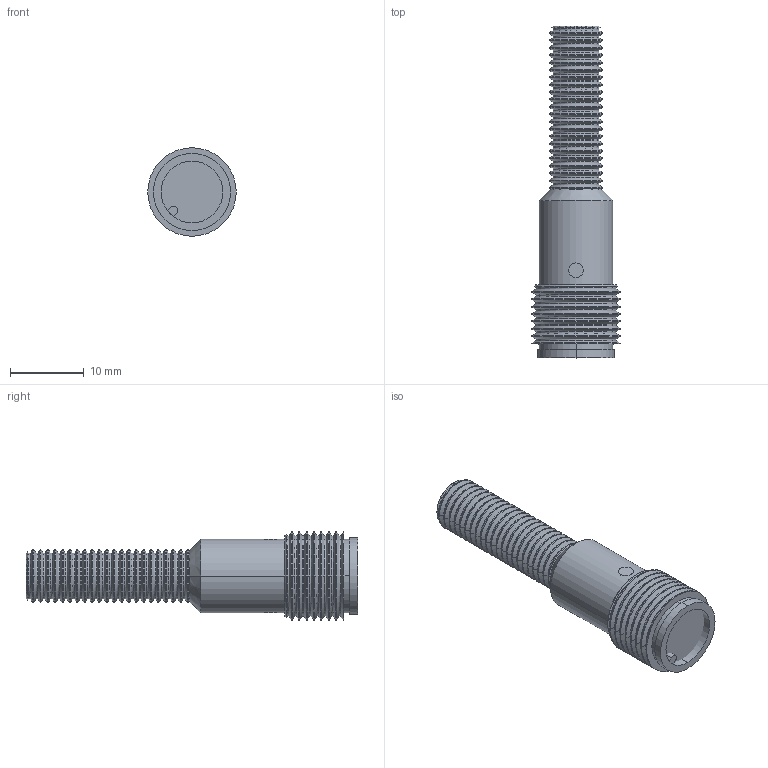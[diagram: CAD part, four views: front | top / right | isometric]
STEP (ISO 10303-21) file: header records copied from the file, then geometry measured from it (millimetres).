
FILE_DESCRIPTION(('STEP AP214'),'1');
FILE_NAME('Z:/Zeichnungen/3D-Daten/3D-Daten INIS/STEP/tmp1.step','2024-10-01T10:40:20',(' '),(' '),'Spatial InterOp 3D',' ',' ');
FILE_SCHEMA(('automotive_design'));
Length unit declared in the file: millimetre
Products named in the file (4): 2; R2; 1
Bounding box: 12 x 45.02 x 12 mm (x, y, z)
Volume: 3116.7 mm3; surface area: 2976.1 mm2
Topology: 4 solids, 4 shells, 453 faces, 993 edges, 559 vertices
Faces by surface type: cylinder 229, cone 148, plane 43, torus 23, bspline 10
Entity records: 16608 total; most frequent: CARTESIAN_POINT 2825, DIRECTION 2337, ORIENTED_EDGE 1970, EDGE_CURVE 985, AXIS2_PLACEMENT_3D 954, VERTEX_POINT 559, CIRCLE 503, EDGE_LOOP 480
